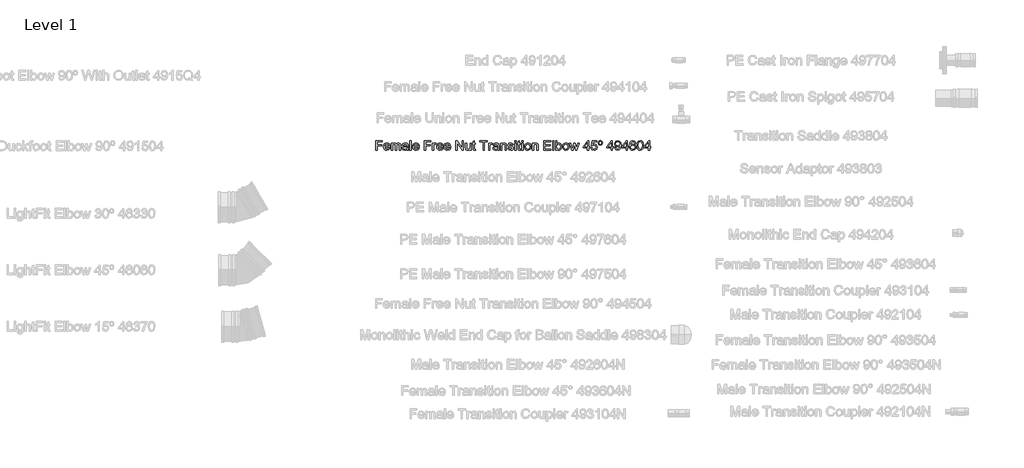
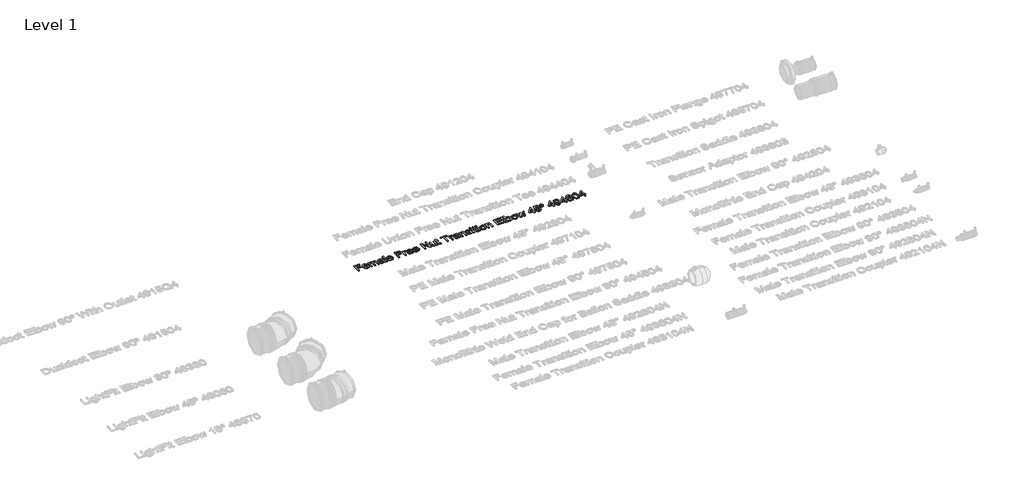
# One storey, part 28 of 38: 1 proxy.
"""IFC4 building model written with IfcOpenShell, lengths in millimetres."""

from ifc_helpers import new_model, si_unit, origin, origin_with_axes, place, context, project, spatial, polyline, outline, extrude, element, save

model = new_model("IFC4")

# Units and contexts
model_context = context("Model", 3, world=origin())
ifc_project = project(units=[si_unit("LENGTHUNIT", "METRE", prefix="MILLI")], contexts=[model_context])

# Site, building, storey
site = spatial("IfcSite", under=ifc_project)
building = spatial("IfcBuilding", under=site)
storey = spatial("IfcBuildingStorey", under=building, Name="Level 1", Elevation=0.0)

# Proxy
placement = place(None, origin())
element("IfcBuildingElementProxy", 1, Name="100 mm Arial", ObjectType="100 mm Arial", at=placement, inside=storey, context=model_context, shape_type="SweptSolid", body=[
    extrude(outline(polyline([(15480.0441677, 4564.446795), (15480.0441677, 4623.523718), (15519.7364754, 4623.523718), (15519.7364754, 4616.1391027), (15487.4287831, 4616.1391027), (15487.4287831, 4598.6006411), (15515.1210908, 4598.6006411), (15515.1210908, 4591.2160257), (15487.4287831, 4591.2160257), (15487.4287831, 4564.446795), (15480.0441677, 4564.446795)])), origin_with_axes(), (0.0, 0.0, 1.0), 5.0),
    extrude(outline(polyline([(15559.3422447, 4577.3698719), (15566.5826293, 4576.446795), (15559.8109947, 4566.9131411), (15547.1980139, 4563.523718), (15538.5333504, 4564.9858575), (15531.8662831, 4569.3722757), (15527.6150812, 4576.3981171), (15526.1980139, 4585.7785257), (15527.6295043, 4595.4744392), (15531.9239754, 4602.7256411), (15538.5008985, 4607.2472757), (15546.7797447, 4608.7544873), (15554.8007783, 4607.2508815), (15561.2100331, 4602.7400642), (15565.4125572, 4595.5032853), (15566.8133985, 4585.821795), (15566.7701293, 4583.8314103), (15533.5826293, 4583.8314103), (15537.8302254, 4574.2400642), (15547.3422447, 4570.9083334), (15554.5826293, 4572.4516027), (15559.3422447, 4577.3698719)]), holes=[polyline([(15533.5826293, 4591.2160257), (15559.4287831, 4591.2160257), (15556.4720524, 4597.9083334), (15546.7508985, 4601.3698719), (15537.6571485, 4598.6078527), (15533.5826293, 4591.2160257)])]), origin_with_axes(), (0.0, 0.0, 1.0), 5.0),
    extrude(outline(polyline([(15574.1980139, 4564.446795), (15574.1980139, 4607.8314103), (15581.5826293, 4607.8314103), (15581.5826293, 4600.6919873), (15586.6595524, 4606.540545), (15593.8855139, 4608.7544873), (15601.2845524, 4606.4972757), (15605.3518601, 4600.1727565), (15611.1138793, 4606.6090546), (15618.3903216, 4608.7544873), (15628.0465716, 4605.1847757), (15631.4287831, 4594.1871796), (15631.4287831, 4564.446795), (15624.0441677, 4564.446795), (15624.0441677, 4591.0141027), (15623.3590716, 4597.179968), (15620.8783024, 4600.2160257), (15616.6595524, 4601.3698719), (15609.3975331, 4598.4131411), (15606.5057062, 4588.9371796), (15606.5057062, 4564.446795), (15599.1210908, 4564.446795), (15599.1210908, 4591.836218), (15597.4119562, 4598.9900642), (15591.8085908, 4601.3698719), (15586.3422447, 4599.7833334), (15582.7076293, 4595.1391027), (15581.5826293, 4586.3266027), (15581.5826293, 4564.446795), (15574.1980139, 4564.446795)])), origin_with_axes(), (0.0, 0.0, 1.0), 5.0),
    extrude(outline(polyline([(15670.1980139, 4569.9852565), (15663.0369562, 4564.9804488), (15655.1258985, 4563.523718), (15644.4023408, 4567.0285257), (15640.6595524, 4575.9852565), (15642.0730139, 4581.8266027), (15645.7869562, 4586.0669873), (15650.9576293, 4588.4900642), (15657.3470524, 4589.6006411), (15670.1547447, 4592.1391027), (15670.1980139, 4593.7833334), (15668.1643601, 4599.2352565), (15660.0008985, 4601.3698719), (15652.5297447, 4599.9491988), (15648.9672447, 4594.9083334), (15641.5826293, 4595.8314103), (15644.7773408, 4603.0429488), (15651.2100331, 4607.2689103), (15660.9528216, 4608.7544873), (15669.9023408, 4607.4419873), (15674.9576293, 4604.1463142), (15677.2220524, 4599.134295), (15677.5826293, 4592.6727565), (15677.5826293, 4583.4852565), (15677.9576293, 4570.6559296), (15679.4287831, 4564.446795), (15672.0441677, 4564.446795), (15670.1980139, 4569.9852565)]), holes=[polyline([(15670.1980139, 4584.7544873), (15658.2845524, 4582.4900642), (15651.931187, 4581.2929488), (15649.0537831, 4579.3458334), (15648.0441677, 4576.5044873), (15650.243687, 4572.509295), (15656.6980139, 4570.9083334), (15664.1691677, 4572.6751603), (15668.9864754, 4576.9516027), (15670.1547447, 4582.6631411), (15670.1980139, 4584.7544873)])]), origin_with_axes(), (0.0, 0.0, 1.0), 5.0),
    extrude(outline(polyline([(15687.7364754, 4564.446795), (15687.7364754, 4623.523718), (15695.1210908, 4623.523718), (15695.1210908, 4564.446795), (15687.7364754, 4564.446795)])), origin_with_axes(), (0.0, 0.0, 1.0), 5.0),
    extrude(outline(polyline([(15736.5730139, 4577.3698719), (15743.8133985, 4576.446795), (15737.0417639, 4566.9131411), (15724.4287831, 4563.523718), (15715.7641197, 4564.9858575), (15709.0970524, 4569.3722757), (15704.8458504, 4576.3981171), (15703.4287831, 4585.7785257), (15704.8602735, 4595.4744392), (15709.1547447, 4602.7256411), (15715.7316677, 4607.2472757), (15724.0105139, 4608.7544873), (15732.0315476, 4607.2508815), (15738.4408024, 4602.7400642), (15742.6433264, 4595.5032853), (15744.0441677, 4585.821795), (15744.0008985, 4583.8314103), (15710.8133985, 4583.8314103), (15715.0609947, 4574.2400642), (15724.5730139, 4570.9083334), (15731.8133985, 4572.4516027), (15736.5730139, 4577.3698719)]), holes=[polyline([(15710.8133985, 4591.2160257), (15736.6595524, 4591.2160257), (15733.7028216, 4597.9083334), (15723.9816677, 4601.3698719), (15714.8879177, 4598.6078527), (15710.8133985, 4591.2160257)])]), origin_with_axes(), (0.0, 0.0, 1.0), 5.0),
    extrude(outline(polyline([(15775.4287831, 4564.446795), (15775.4287831, 4623.523718), (15815.1210908, 4623.523718), (15815.1210908, 4616.1391027), (15782.8133985, 4616.1391027), (15782.8133985, 4598.6006411), (15810.5057062, 4598.6006411), (15810.5057062, 4591.2160257), (15782.8133985, 4591.2160257), (15782.8133985, 4564.446795), (15775.4287831, 4564.446795)])), origin_with_axes(), (0.0, 0.0, 1.0), 5.0),
    extrude(outline(polyline([(15824.3518601, 4564.446795), (15824.3518601, 4607.8314103), (15830.8133985, 4607.8314103), (15830.8133985, 4601.4131411), (15835.399937, 4607.3266027), (15840.0153216, 4608.7544873), (15847.4287831, 4606.4756411), (15844.962437, 4599.8554488), (15839.7701293, 4601.3698719), (15835.5946485, 4599.9131411), (15832.9335908, 4595.8746796), (15831.7364754, 4587.2496796), (15831.7364754, 4564.446795), (15824.3518601, 4564.446795)])), origin_with_axes(), (0.0, 0.0, 1.0), 5.0),
    extrude(outline(polyline([(15882.4191677, 4577.3698719), (15889.6595524, 4576.446795), (15882.8879177, 4566.9131411), (15870.274937, 4563.523718), (15861.6102735, 4564.9858575), (15854.9432062, 4569.3722757), (15850.6920043, 4576.3981171), (15849.274937, 4585.7785257), (15850.7064274, 4595.4744392), (15855.0008985, 4602.7256411), (15861.5778216, 4607.2472757), (15869.8566677, 4608.7544873), (15877.8777014, 4607.2508815), (15884.2869562, 4602.7400642), (15888.4894802, 4595.5032853), (15889.8903216, 4585.821795), (15889.8470524, 4583.8314103), (15856.6595524, 4583.8314103), (15860.9071485, 4574.2400642), (15870.4191677, 4570.9083334), (15877.6595524, 4572.4516027), (15882.4191677, 4577.3698719)]), holes=[polyline([(15856.6595524, 4591.2160257), (15882.5057062, 4591.2160257), (15879.5489754, 4597.9083334), (15869.8278216, 4601.3698719), (15860.7340716, 4598.6078527), (15856.6595524, 4591.2160257)])]), origin_with_axes(), (0.0, 0.0, 1.0), 5.0),
    extrude(outline(polyline([(15927.649937, 4577.3698719), (15934.8903216, 4576.446795), (15928.118687, 4566.9131411), (15915.5057062, 4563.523718), (15906.8410427, 4564.9858575), (15900.1739754, 4569.3722757), (15895.9227735, 4576.3981171), (15894.5057062, 4585.7785257), (15895.9371966, 4595.4744392), (15900.2316677, 4602.7256411), (15906.8085908, 4607.2472757), (15915.087437, 4608.7544873), (15923.1084706, 4607.2508815), (15929.5177254, 4602.7400642), (15933.7202495, 4595.5032853), (15935.1210908, 4585.821795), (15935.0778216, 4583.8314103), (15901.8903216, 4583.8314103), (15906.1379177, 4574.2400642), (15915.649937, 4570.9083334), (15922.8903216, 4572.4516027), (15927.649937, 4577.3698719)]), holes=[polyline([(15901.8903216, 4591.2160257), (15927.7364754, 4591.2160257), (15924.7797447, 4597.9083334), (15915.0585908, 4601.3698719), (15905.9648408, 4598.6078527), (15901.8903216, 4591.2160257)])]), origin_with_axes(), (0.0, 0.0, 1.0), 5.0),
    extrude(outline(polyline([(15966.5057062, 4564.446795), (15966.5057062, 4623.523718), (15974.4095524, 4623.523718), (16005.274937, 4576.7208334), (16005.274937, 4623.523718), (16012.6595524, 4623.523718), (16012.6595524, 4564.446795), (16004.7557062, 4564.446795), (15973.8903216, 4611.2641027), (15973.8903216, 4564.446795), (15966.5057062, 4564.446795)])), origin_with_axes(), (0.0, 0.0, 1.0), 5.0),
    extrude(outline(polyline([(16052.3518601, 4564.446795), (16052.3518601, 4571.9035257), (16046.5682062, 4565.61867), (16039.024937, 4563.523718), (16032.0802254, 4564.9948719), (16027.2917639, 4568.6871796), (16025.0922447, 4574.1246796), (16024.6595524, 4580.9900642), (16024.6595524, 4607.8314103), (16032.0441677, 4607.8314103), (16032.0441677, 4584.4660257), (16032.4912831, 4576.9371796), (16035.4119562, 4572.5165065), (16040.9143601, 4570.9083334), (16047.0802254, 4572.5525642), (16051.1547447, 4577.0309296), (16052.3518601, 4585.259295), (16052.3518601, 4607.8314103), (16059.7364754, 4607.8314103), (16059.7364754, 4564.446795), (16052.3518601, 4564.446795)])), origin_with_axes(), (0.0, 0.0, 1.0), 5.0),
    extrude(outline(polyline([(16085.5826293, 4570.6054488), (16086.5057062, 4564.2304488), (16080.9816677, 4563.523718), (16074.7941677, 4564.7496796), (16071.7076293, 4567.9660257), (16070.8133985, 4576.3458334), (16070.8133985, 4600.446795), (16065.274937, 4600.446795), (16065.274937, 4607.8314103), (16070.8133985, 4607.8314103), (16070.8133985, 4618.3746796), (16078.1980139, 4622.7160257), (16078.1980139, 4607.8314103), (16085.5826293, 4607.8314103), (16085.5826293, 4600.446795), (16078.1980139, 4600.446795), (16078.1980139, 4576.5621796), (16078.587437, 4572.7544873), (16079.8494562, 4571.4059296), (16082.3662831, 4570.9083334), (16085.5826293, 4570.6054488)])), origin_with_axes(), (0.0, 0.0, 1.0), 5.0),
    extrude(outline(polyline([(16131.7364754, 4564.446795), (16131.7364754, 4616.1391027), (16112.3518601, 4616.1391027), (16112.3518601, 4623.523718), (16158.5057062, 4623.523718), (16158.5057062, 4616.1391027), (16139.1210908, 4616.1391027), (16139.1210908, 4564.446795), (16131.7364754, 4564.446795)])), origin_with_axes(), (0.0, 0.0, 1.0), 5.0),
    extrude(outline(polyline([(16165.8903216, 4564.446795), (16165.8903216, 4607.8314103), (16172.3518601, 4607.8314103), (16172.3518601, 4601.4131411), (16176.9383985, 4607.3266027), (16181.5537831, 4608.7544873), (16188.9672447, 4606.4756411), (16186.5008985, 4599.8554488), (16181.3085908, 4601.3698719), (16177.1331101, 4599.9131411), (16174.4720524, 4595.8746796), (16173.274937, 4587.2496796), (16173.274937, 4564.446795), (16165.8903216, 4564.446795)])), origin_with_axes(), (0.0, 0.0, 1.0), 5.0),
    extrude(outline(polyline([(16221.274937, 4569.9852565), (16214.1138793, 4564.9804488), (16206.2028216, 4563.523718), (16195.4792639, 4567.0285257), (16191.7364754, 4575.9852565), (16193.149937, 4581.8266027), (16196.8638793, 4586.0669873), (16202.0345524, 4588.4900642), (16208.4239754, 4589.6006411), (16221.2316677, 4592.1391027), (16221.274937, 4593.7833334), (16219.2412831, 4599.2352565), (16211.0778216, 4601.3698719), (16203.6066677, 4599.9491988), (16200.0441677, 4594.9083334), (16192.6595524, 4595.8314103), (16195.8542639, 4603.0429488), (16202.2869562, 4607.2689103), (16212.0297447, 4608.7544873), (16220.9792639, 4607.4419873), (16226.0345524, 4604.1463142), (16228.2989754, 4599.134295), (16228.6595524, 4592.6727565), (16228.6595524, 4583.4852565), (16229.0345524, 4570.6559296), (16230.5057062, 4564.446795), (16223.1210908, 4564.446795), (16221.274937, 4569.9852565)]), holes=[polyline([(16221.274937, 4584.7544873), (16209.3614754, 4582.4900642), (16203.0081101, 4581.2929488), (16200.1307062, 4579.3458334), (16199.1210908, 4576.5044873), (16201.3206101, 4572.509295), (16207.774937, 4570.9083334), (16215.2460908, 4572.6751603), (16220.0633985, 4576.9516027), (16221.2316677, 4582.6631411), (16221.274937, 4584.7544873)])]), origin_with_axes(), (0.0, 0.0, 1.0), 5.0),
    extrude(outline(polyline([(16238.8133985, 4564.446795), (16238.8133985, 4607.8314103), (16246.1980139, 4607.8314103), (16246.1980139, 4601.773718), (16251.8446485, 4607.009295), (16259.5537831, 4608.7544873), (16266.5273408, 4607.3482373), (16271.2869562, 4603.6559296), (16273.5008985, 4598.2256411), (16273.8903216, 4591.086218), (16273.8903216, 4564.446795), (16266.5057062, 4564.446795), (16266.5057062, 4590.0910257), (16265.6547447, 4596.6246796), (16262.6475331, 4600.0790065), (16257.5778216, 4601.3698719), (16249.5658024, 4598.4708334), (16246.1980139, 4587.4660257), (16246.1980139, 4564.446795), (16238.8133985, 4564.446795)])), origin_with_axes(), (0.0, 0.0, 1.0), 5.0),
    extrude(outline(polyline([(16281.274937, 4577.3698719), (16288.6595524, 4578.2929488), (16292.0778216, 4572.8121796), (16299.9095524, 4570.9083334), (16307.4383985, 4572.6535257), (16309.8903216, 4576.7496796), (16307.4239754, 4580.0669873), (16299.8230139, 4582.1727565), (16288.7028216, 4585.7857373), (16283.8494562, 4590.0044873), (16282.1980139, 4595.961218), (16283.524937, 4601.4636219), (16287.1451293, 4605.6679488), (16291.8398408, 4607.853045), (16298.1932062, 4608.7544873), (16307.1787831, 4607.304968), (16312.8903216, 4603.3818911), (16315.4287831, 4596.7544873), (16308.0441677, 4595.8314103), (16305.2677254, 4599.9059296), (16298.7701293, 4601.3698719), (16291.7028216, 4599.9708334), (16289.5826293, 4596.711218), (16290.462437, 4594.5621796), (16293.2172447, 4592.9323719), (16299.5778216, 4591.3602565), (16310.4167639, 4587.884295), (16315.4504177, 4583.946795), (16317.274937, 4577.5285257), (16315.1331101, 4570.461218), (16308.9528216, 4565.3338142), (16299.8085908, 4563.523718), (16286.9287831, 4567.0141027), (16281.274937, 4577.3698719)])), origin_with_axes(), (0.0, 0.0, 1.0), 5.0),
    extrude(outline(polyline([(16325.5826293, 4564.446795), (16325.5826293, 4607.8314103), (16332.9672447, 4607.8314103), (16332.9672447, 4564.446795), (16325.5826293, 4564.446795)])), origin_with_axes(), (0.0, 0.0, 1.0), 5.0),
    extrude(outline(polyline([(16325.5826293, 4616.1391027), (16325.5826293, 4623.523718), (16332.9672447, 4623.523718), (16332.9672447, 4616.1391027), (16325.5826293, 4616.1391027)])), origin_with_axes(), (0.0, 0.0, 1.0), 5.0),
    extrude(outline(polyline([(16359.7364754, 4570.6054488), (16360.6595524, 4564.2304488), (16355.1355139, 4563.523718), (16348.9480139, 4564.7496796), (16345.8614754, 4567.9660257), (16344.9672447, 4576.3458334), (16344.9672447, 4600.446795), (16339.4287831, 4600.446795), (16339.4287831, 4607.8314103), (16344.9672447, 4607.8314103), (16344.9672447, 4618.3746796), (16352.3518601, 4622.7160257), (16352.3518601, 4607.8314103), (16359.7364754, 4607.8314103), (16359.7364754, 4600.446795), (16352.3518601, 4600.446795), (16352.3518601, 4576.5621796), (16352.7412831, 4572.7544873), (16354.0033024, 4571.4059296), (16356.5201293, 4570.9083334), (16359.7364754, 4570.6054488)])), origin_with_axes(), (0.0, 0.0, 1.0), 5.0),
    extrude(outline(polyline([(16367.1210908, 4616.1391027), (16367.1210908, 4623.523718), (16374.5057062, 4623.523718), (16374.5057062, 4616.1391027), (16367.1210908, 4616.1391027)])), origin_with_axes(), (0.0, 0.0, 1.0), 5.0),
    extrude(outline(polyline([(16367.1210908, 4564.446795), (16367.1210908, 4607.8314103), (16374.5057062, 4607.8314103), (16374.5057062, 4564.446795), (16367.1210908, 4564.446795)])), origin_with_axes(), (0.0, 0.0, 1.0), 5.0),
    extrude(outline(polyline([(16383.7364754, 4586.1391027), (16385.3338312, 4596.5994392), (16390.1258985, 4603.9516027), (16403.1355139, 4608.7544873), (16410.8933264, 4607.2923478), (16417.0898408, 4602.9059296), (16421.1517399, 4595.9413863), (16422.5057062, 4586.7448719), (16420.1114754, 4573.6054488), (16413.1379177, 4566.1703527), (16403.1355139, 4563.523718), (16395.2839514, 4564.9804488), (16389.0946485, 4569.3506411), (16385.0760187, 4576.461218), (16383.7364754, 4586.1391027)]), holes=[polyline([(16391.1210908, 4586.1535257), (16394.5393601, 4574.7088142), (16403.1355139, 4570.9083334), (16411.7028216, 4574.7304488), (16415.1210908, 4586.384295), (16411.681187, 4597.5693911), (16403.1355139, 4601.3698719), (16394.5393601, 4597.5838142), (16391.1210908, 4586.1535257)])]), origin_with_axes(), (0.0, 0.0, 1.0), 5.0),
    extrude(outline(polyline([(16430.8133985, 4564.446795), (16430.8133985, 4607.8314103), (16438.1980139, 4607.8314103), (16438.1980139, 4601.773718), (16443.8446485, 4607.009295), (16451.5537831, 4608.7544873), (16458.5273408, 4607.3482373), (16463.2869562, 4603.6559296), (16465.5008985, 4598.2256411), (16465.8903216, 4591.086218), (16465.8903216, 4564.446795), (16458.5057062, 4564.446795), (16458.5057062, 4590.0910257), (16457.6547447, 4596.6246796), (16454.6475331, 4600.0790065), (16449.5778216, 4601.3698719), (16441.5658024, 4598.4708334), (16438.1980139, 4587.4660257), (16438.1980139, 4564.446795), (16430.8133985, 4564.446795)])), origin_with_axes(), (0.0, 0.0, 1.0), 5.0),
    extrude(outline(polyline([(16500.0441677, 4564.446795), (16500.0441677, 4623.523718), (16542.5057062, 4623.523718), (16542.5057062, 4616.1391027), (16507.4287831, 4616.1391027), (16507.4287831, 4598.6006411), (16540.6595524, 4598.6006411), (16540.6595524, 4591.2160257), (16507.4287831, 4591.2160257), (16507.4287831, 4571.8314103), (16543.4287831, 4571.8314103), (16543.4287831, 4564.446795), (16500.0441677, 4564.446795)])), origin_with_axes(), (0.0, 0.0, 1.0), 5.0),
    extrude(outline(polyline([(16553.5826293, 4564.446795), (16553.5826293, 4623.523718), (16560.9672447, 4623.523718), (16560.9672447, 4564.446795), (16553.5826293, 4564.446795)])), origin_with_axes(), (0.0, 0.0, 1.0), 5.0),
    extrude(outline(polyline([(16579.4287831, 4564.446795), (16572.0441677, 4564.446795), (16572.0441677, 4623.523718), (16579.4287831, 4623.523718), (16579.4287831, 4601.6150642), (16584.5994562, 4606.9696315), (16591.024937, 4608.7544873), (16598.4239754, 4607.1463142), (16604.1643601, 4602.6246796), (16607.6908024, 4595.5934296), (16608.9672447, 4586.7881411), (16607.6457302, 4576.929968), (16603.681187, 4569.5958334), (16597.8632783, 4565.0417469), (16590.9816677, 4563.523718), (16584.415562, 4565.4816507), (16579.4287831, 4571.3554488), (16579.4287831, 4564.446795)]), holes=[polyline([(16579.4287831, 4586.4419873), (16581.4480139, 4576.1150642), (16590.3470524, 4570.9083334), (16598.2508985, 4574.7448719), (16601.5826293, 4586.1823719), (16598.3879177, 4597.6631411), (16590.6643601, 4601.3698719), (16582.7605139, 4597.5333334), (16579.4287831, 4586.4419873)])]), origin_with_axes(), (0.0, 0.0, 1.0), 5.0),
    extrude(outline(polyline([(16615.4287831, 4586.1391027), (16617.0261389, 4596.5994392), (16621.8182062, 4603.9516027), (16634.8278216, 4608.7544873), (16642.5856341, 4607.2923478), (16648.7821485, 4602.9059296), (16652.8440476, 4595.9413863), (16654.1980139, 4586.7448719), (16651.8037831, 4573.6054488), (16644.8302254, 4566.1703527), (16634.8278216, 4563.523718), (16626.9762591, 4564.9804488), (16620.7869562, 4569.3506411), (16616.7683264, 4576.461218), (16615.4287831, 4586.1391027)]), holes=[polyline([(16622.8133985, 4586.1535257), (16626.2316677, 4574.7088142), (16634.8278216, 4570.9083334), (16643.3951293, 4574.7304488), (16646.8133985, 4586.384295), (16643.3734947, 4597.5693911), (16634.8278216, 4601.3698719), (16626.2316677, 4597.5838142), (16622.8133985, 4586.1535257)])]), origin_with_axes(), (0.0, 0.0, 1.0), 5.0),
    extrude(outline(polyline([(16669.7028216, 4564.446795), (16656.5057062, 4607.8314103), (16664.1787831, 4607.8314103), (16671.6643601, 4582.5189103), (16673.899937, 4573.4756411), (16675.7316677, 4582.1871796), (16681.6883985, 4607.8314103), (16690.4864754, 4607.8314103), (16696.4143601, 4582.259295), (16698.0441677, 4574.3698719), (16700.3807062, 4582.6919873), (16707.8807062, 4607.8314103), (16715.5826293, 4607.8314103), (16702.2845524, 4564.446795), (16693.3566677, 4564.446795), (16687.6883985, 4589.8891027), (16686.0441677, 4597.821795), (16678.7316677, 4564.446795), (16669.7028216, 4564.446795)])), origin_with_axes(), (0.0, 0.0, 1.0), 5.0),
    extrude(outline(polyline([(16765.8903216, 4564.446795), (16765.8903216, 4578.2929488), (16739.1210908, 4578.2929488), (16739.1210908, 4585.6775642), (16767.7364754, 4622.6006411), (16773.274937, 4622.6006411), (16773.274937, 4585.6775642), (16780.6595524, 4585.6775642), (16780.6595524, 4578.2929488), (16773.274937, 4578.2929488), (16773.274937, 4564.446795), (16765.8903216, 4564.446795)]), holes=[polyline([(16765.8903216, 4585.6775642), (16765.8903216, 4608.4948719), (16748.2076293, 4585.6775642), (16765.8903216, 4585.6775642)])]), origin_with_axes(), (0.0, 0.0, 1.0), 5.0),
    extrude(outline(polyline([(16787.1210908, 4580.1391027), (16794.5057062, 4581.0621796), (16798.2268601, 4573.4540065), (16805.9432062, 4570.9083334), (16815.2028216, 4574.4491988), (16818.5057062, 4583.8458334), (16815.4119562, 4592.6150642), (16806.0585908, 4595.8314103), (16799.5754177, 4594.5477565), (16795.4287831, 4591.2160257), (16788.0441677, 4592.1391027), (16794.5057062, 4622.6006411), (16823.1210908, 4622.6006411), (16823.1210908, 4615.2160257), (16800.4768601, 4615.2160257), (16797.3182062, 4598.946795), (16808.1210908, 4603.2160257), (16820.7484947, 4597.9227565), (16825.8903216, 4584.3073719), (16821.2605139, 4570.6054488), (16814.6114754, 4565.2941507), (16805.9143601, 4563.523718), (16792.8831101, 4568.0741988), (16787.1210908, 4580.1391027)])), origin_with_axes(), (0.0, 0.0, 1.0), 5.0),
    extrude(outline(polyline([(16843.8903216, 4624.446795), (16853.5393601, 4620.3939103), (16857.274937, 4609.2016027), (16853.5177254, 4598.0381411), (16843.9335908, 4593.9852565), (16834.2629177, 4597.9588142), (16830.5057062, 4609.0285257), (16834.2412831, 4620.3939103), (16843.8903216, 4624.446795)]), holes=[polyline([(16843.8903216, 4618.9083334), (16839.5417639, 4616.6366988), (16837.8903216, 4609.2160257), (16839.5706101, 4601.8602565), (16843.8903216, 4599.523718), (16848.2244562, 4601.8602565), (16849.8903216, 4609.4179488), (16848.2100331, 4616.5934296), (16843.8903216, 4618.9083334)])]), origin_with_axes(), (0.0, 0.0, 1.0), 5.0),
    extrude(outline(polyline([(16909.8903216, 4564.446795), (16909.8903216, 4578.2929488), (16883.1210908, 4578.2929488), (16883.1210908, 4585.6775642), (16911.7364754, 4622.6006411), (16917.274937, 4622.6006411), (16917.274937, 4585.6775642), (16924.6595524, 4585.6775642), (16924.6595524, 4578.2929488), (16917.274937, 4578.2929488), (16917.274937, 4564.446795), (16909.8903216, 4564.446795)]), holes=[polyline([(16909.8903216, 4585.6775642), (16909.8903216, 4608.4948719), (16892.2076293, 4585.6775642), (16909.8903216, 4585.6775642)])]), origin_with_axes(), (0.0, 0.0, 1.0), 5.0),
    extrude(outline(polyline([(16932.0441677, 4579.2160257), (16939.4287831, 4580.1391027), (16942.7460908, 4573.0934296), (16949.0345524, 4570.9083334), (16955.0129177, 4572.3145834), (16959.0658024, 4576.071795), (16961.4816677, 4582.4900642), (16962.5489754, 4591.0573719), (16956.5994562, 4586.9035257), (16948.5008985, 4584.7544873), (16936.1619562, 4590.0044873), (16931.1210908, 4603.836218), (16936.4071485, 4618.1150642), (16949.6547447, 4623.523718), (16960.1763793, 4620.4371796), (16967.4167639, 4611.6391027), (16969.8903216, 4595.1102565), (16967.4239754, 4577.1751603), (16960.0898408, 4567.0141027), (16948.6883985, 4563.523718), (16937.337437, 4567.6415065), (16932.0441677, 4579.2160257)]), holes=[polyline([(16962.5057062, 4604.009295), (16959.3182062, 4612.8650642), (16950.8518601, 4616.1391027), (16941.9672447, 4612.6126603), (16938.5057062, 4603.4756411), (16941.7797447, 4595.290545), (16950.649937, 4592.1391027), (16959.1667639, 4595.290545), (16962.5057062, 4604.009295)])]), origin_with_axes(), (0.0, 0.0, 1.0), 5.0),
    extrude(outline(polyline([(17000.3518601, 4564.446795), (17000.3518601, 4578.2929488), (16973.5826293, 4578.2929488), (16973.5826293, 4585.6775642), (17002.1980139, 4622.6006411), (17007.7364754, 4622.6006411), (17007.7364754, 4585.6775642), (17015.1210908, 4585.6775642), (17015.1210908, 4578.2929488), (17007.7364754, 4578.2929488), (17007.7364754, 4564.446795), (17000.3518601, 4564.446795)]), holes=[polyline([(17000.3518601, 4585.6775642), (17000.3518601, 4608.4948719), (16982.6691677, 4585.6775642), (17000.3518601, 4585.6775642)])]), origin_with_axes(), (0.0, 0.0, 1.0), 5.0),
    extrude(outline(polyline([(17059.4287831, 4607.8314103), (17052.0441677, 4606.9083334), (17049.2460908, 4613.0669873), (17041.8470524, 4616.1391027), (17035.1835908, 4614.3506411), (17030.1427254, 4607.6366988), (17028.0441677, 4594.4756411), (17034.556187, 4600.367468), (17042.6258985, 4602.2929488), (17055.1739754, 4597.0285257), (17060.3518601, 4583.4275642), (17057.9143601, 4573.2376603), (17051.2076293, 4566.0261219), (17041.5297447, 4563.523718), (17033.1517399, 4565.1823719), (17026.4792639, 4570.1583334), (17022.1144802, 4578.9419873), (17020.6595524, 4592.023718), (17022.274937, 4606.7316507), (17027.1210908, 4616.7881411), (17033.7376774, 4621.8398238), (17042.3085908, 4623.523718), (17053.9768601, 4619.3554488), (17059.4287831, 4607.8314103)]), holes=[polyline([(17028.0441677, 4583.5429488), (17029.7533024, 4577.1463142), (17034.2965716, 4572.5020834), (17040.9528216, 4570.9083334), (17049.6571485, 4574.211218), (17052.9672447, 4583.1823719), (17049.7004177, 4591.7713142), (17040.649937, 4594.9083334), (17031.7148408, 4591.7713142), (17028.0441677, 4583.5429488)])]), origin_with_axes(), (0.0, 0.0, 1.0), 5.0),
    extrude(outline(polyline([(17066.8133985, 4593.509295), (17068.9840716, 4610.5068911), (17075.431187, 4620.3073719), (17086.1980139, 4623.523718), (17094.8230139, 4621.6198719), (17100.7797447, 4616.1318911), (17104.2412831, 4607.3915065), (17105.5826293, 4593.509295), (17103.4335908, 4576.5838142), (17097.0081101, 4566.7616988), (17086.1980139, 4563.523718), (17078.524937, 4564.929968), (17072.6980139, 4569.148718), (17068.2845524, 4579.1403046), (17066.8133985, 4593.509295)]), holes=[polyline([(17074.1980139, 4593.523718), (17077.6595524, 4575.1847757), (17086.1980139, 4570.9083334), (17094.7364754, 4575.1991988), (17098.1980139, 4593.523718), (17094.8518601, 4611.6535257), (17086.1114754, 4616.1391027), (17077.774937, 4612.1871796), (17074.1980139, 4593.523718)])]), origin_with_axes(), (0.0, 0.0, 1.0), 5.0),
    extrude(outline(polyline([(17136.0441677, 4564.446795), (17136.0441677, 4578.2929488), (17109.274937, 4578.2929488), (17109.274937, 4585.6775642), (17137.8903216, 4622.6006411), (17143.4287831, 4622.6006411), (17143.4287831, 4585.6775642), (17150.8133985, 4585.6775642), (17150.8133985, 4578.2929488), (17143.4287831, 4578.2929488), (17143.4287831, 4564.446795), (17136.0441677, 4564.446795)]), holes=[polyline([(17136.0441677, 4585.6775642), (17136.0441677, 4608.4948719), (17118.3614754, 4585.6775642), (17136.0441677, 4585.6775642)])]), origin_with_axes(), (0.0, 0.0, 1.0), 5.0),
])

save(model, "model.ifc")
